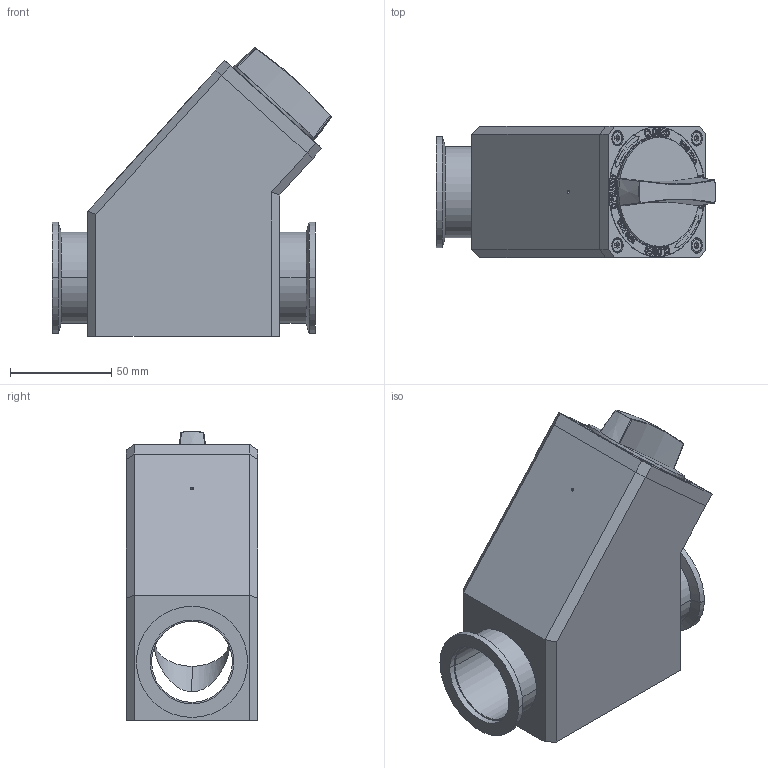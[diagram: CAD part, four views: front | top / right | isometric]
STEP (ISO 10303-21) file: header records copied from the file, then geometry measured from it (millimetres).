
FILE_DESCRIPTION (( 'STEP AP203' ), '1' );
FILE_NAME ('KF40忒雄眻籵概.STEP', '2024-03-01T08:42:44', ( '' ), ( '' ), 'SwSTEP 2.0', 'SolidWorks 2023', '' );
FILE_SCHEMA (( 'CONFIG_CONTROL_DESIGN' ));
Length unit declared in the file: millimetre
Products named in the file (1): KF40手动直通阀
Bounding box: 138.17 x 65 x 142.97 mm (x, y, z)
Surface area: 67985.3 mm2 (no closed solid volume)
Topology: 0 solids, 28 shells, 292 faces, 1538 edges, 1239 vertices
Faces by surface type: plane 169, bspline 49, cylinder 48, cone 16, torus 10
Entity records: 21464 total; most frequent: CARTESIAN_POINT 10648, ORIENTED_EDGE 1987, DIRECTION 1760, EDGE_CURVE 1530, VERTEX_POINT 1239, VECTOR 926, LINE 926, B_SPLINE_CURVE_WITH_KNOTS 431
